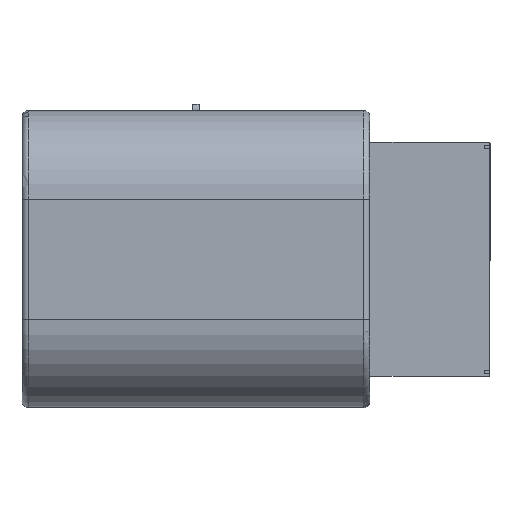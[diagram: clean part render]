
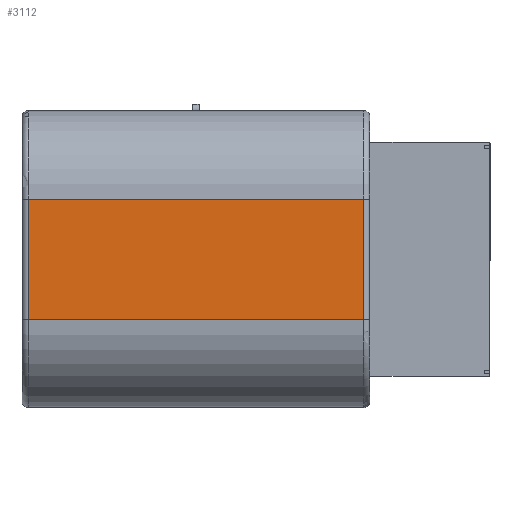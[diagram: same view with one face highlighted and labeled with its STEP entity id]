
A CAD part, left-side view. The second image highlights one B-rep face of the part: STEP entity #3112.
In plain terms, the highlighted planar face has unit normal (-1, 0, 0).
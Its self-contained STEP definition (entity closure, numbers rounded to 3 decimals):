
#54 = VERTEX_POINT ( 'NONE', #10071 ) ;
#88 = DIRECTION ( 'NONE',  ( 0., 0., 1. ) ) ;
#318 = ORIENTED_EDGE ( 'NONE', *, *, #1636, .T. ) ;
#819 = CARTESIAN_POINT ( 'NONE',  ( 5677.379, 2307.424, 1558.943 ) ) ;
#1402 = VERTEX_POINT ( 'NONE', #1980 ) ;
#1636 = EDGE_CURVE ( 'NONE', #3636, #54, #3842, .T. ) ;
#1664 = CARTESIAN_POINT ( 'NONE',  ( 5677.379, 2298.954, 1779.023 ) ) ;
#1980 = CARTESIAN_POINT ( 'NONE',  ( 5677.379, 2298.954, 2089.023 ) ) ;
#2142 = ORIENTED_EDGE ( 'NONE', *, *, #4961, .T. ) ;
#2692 = VERTEX_POINT ( 'NONE', #3751 ) ;
#2956 = CARTESIAN_POINT ( 'NONE',  ( 5677.379, 2108.954, 1459.023 ) ) ;
#3112 = ADVANCED_FACE ( 'NONE', ( #4612 ), #7914, .T. ) ;
#3148 = DIRECTION ( 'NONE',  ( 0., -1., 0. ) ) ;
#3271 = VECTOR ( 'NONE', #9359, 1000. ) ;
#3592 = VECTOR ( 'NONE', #3148, 1000. ) ;
#3636 = VERTEX_POINT ( 'NONE', #7795 ) ;
#3726 = AXIS2_PLACEMENT_3D ( 'NONE', #5373, #4553, #5473 ) ;
#3751 = CARTESIAN_POINT ( 'NONE',  ( 5677.379, 2298.954, 1558.943 ) ) ;
#3842 = LINE ( 'NONE', #2956, #7953 ) ;
#4320 = ORIENTED_EDGE ( 'NONE', *, *, #9796, .T. ) ;
#4553 = DIRECTION ( 'NONE',  ( -1., 0., 0. ) ) ;
#4612 = FACE_OUTER_BOUND ( 'NONE', #6016, .T. ) ;
#4961 = EDGE_CURVE ( 'NONE', #2692, #3636, #9130, .T. ) ;
#5004 = LINE ( 'NONE', #1664, #5450 ) ;
#5373 = CARTESIAN_POINT ( 'NONE',  ( 5677.379, 2307.424, 1459.023 ) ) ;
#5450 = VECTOR ( 'NONE', #88, 1000. ) ;
#5473 = DIRECTION ( 'NONE',  ( 0., 0., 1. ) ) ;
#6016 = EDGE_LOOP ( 'NONE', ( #318, #4320, #7363, #2142 ) ) ;
#6691 = EDGE_CURVE ( 'NONE', #2692, #1402, #5004, .T. ) ;
#7363 = ORIENTED_EDGE ( 'NONE', *, *, #6691, .F. ) ;
#7571 = LINE ( 'NONE', #8377, #3271 ) ;
#7795 = CARTESIAN_POINT ( 'NONE',  ( 5677.379, 2108.954, 1558.943 ) ) ;
#7914 = PLANE ( 'NONE',  #3726 ) ;
#7953 = VECTOR ( 'NONE', #9594, 1000. ) ;
#8377 = CARTESIAN_POINT ( 'NONE',  ( 5677.379, 2307.424, 2089.023 ) ) ;
#9130 = LINE ( 'NONE', #819, #3592 ) ;
#9359 = DIRECTION ( 'NONE',  ( 0., 1., 0. ) ) ;
#9594 = DIRECTION ( 'NONE',  ( 0., 0., 1. ) ) ;
#9796 = EDGE_CURVE ( 'NONE', #54, #1402, #7571, .T. ) ;
#10071 = CARTESIAN_POINT ( 'NONE',  ( 5677.379, 2108.954, 2089.023 ) ) ;
